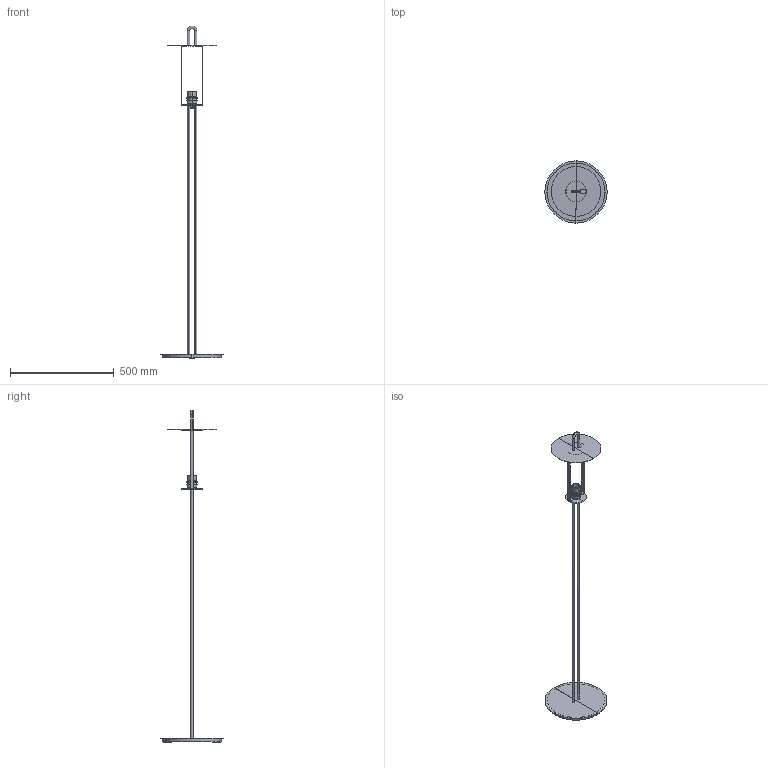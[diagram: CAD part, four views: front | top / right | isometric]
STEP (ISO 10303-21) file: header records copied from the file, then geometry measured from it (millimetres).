
FILE_DESCRIPTION(/* description */ (''),/* implementation_level */ '2;1');
FILE_NAME(/* name */ 'C:\Users\francosartori\Documents\Modelos\01_Digitalizados\0_MONTREAL\03_Publicación\24037.stp',/* time_stamp */ '2020-06-10T18:49:53+02:00',/* author */ ('FrancoSartori'),/* organization */ (''),/* preprocessor_version */ 'ST-DEVELOPER v18.1',/* originating_system */ 'AutoCAD Mechanical',/* authorisation */ '');
FILE_SCHEMA (('AUTOMOTIVE_DESIGN { 1 0 10303 214 3 1 1 }'));
Length unit declared in the file: millimetre
Products named in the file (2): Product; 24036_24037_MONTREAL - MONTREAL-445736-_3D_
Assembly tree (1 placements, depth 2):
  Product
    24036_24037_MONTREAL - MONTREAL-445736-_3D_
Bounding box: 300.01 x 300.01 x 1601.61 mm (x, y, z)
Volume: 1549455.5 mm3; surface area: 549336.1 mm2
Topology: 10 solids, 10 shells, 148 faces, 307 edges, 176 vertices
Faces by surface type: plane 72, cylinder 54, torus 14, bspline 4, cone 4
Entity records: 5252 total; most frequent: CARTESIAN_POINT 2140, DIRECTION 645, ORIENTED_EDGE 614, EDGE_CURVE 307, AXIS2_PLACEMENT_3D 252, VERTEX_POINT 176, EDGE_LOOP 149, FACE_OUTER_BOUND 148
